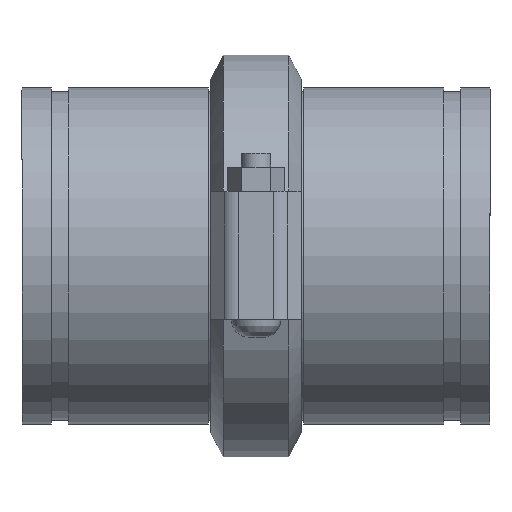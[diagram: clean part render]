
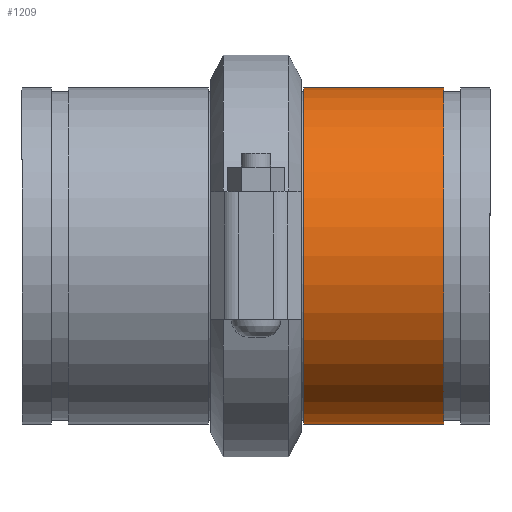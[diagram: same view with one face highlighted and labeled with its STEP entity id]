
A CAD part, top view. The second image highlights one B-rep face of the part: STEP entity #1209.
In plain terms, the highlighted cylindrical face has radius 109.537 mm (diameter 219.075 mm), a full revolution.
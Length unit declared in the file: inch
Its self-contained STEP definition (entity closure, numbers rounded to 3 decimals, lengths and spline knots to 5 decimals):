
#48=LINE('',#1929,#135);
#135=VECTOR('',#1570,4.3125);
#222=CYLINDRICAL_SURFACE('',#1395,4.3125);
#267=FACE_OUTER_BOUND('',#340,.T.);
#340=EDGE_LOOP('',(#797,#798,#799,#800,#801,#802));
#432=CIRCLE('',#1393,4.3125);
#433=CIRCLE('',#1394,4.3125);
#434=CIRCLE('',#1396,4.3125);
#435=CIRCLE('',#1397,4.3125);
#500=VERTEX_POINT('',#1920);
#501=VERTEX_POINT('',#1921);
#502=VERTEX_POINT('',#1925);
#503=VERTEX_POINT('',#1926);
#617=EDGE_CURVE('',#500,#501,#432,.T.);
#618=EDGE_CURVE('',#501,#500,#433,.T.);
#619=EDGE_CURVE('',#502,#503,#434,.T.);
#620=EDGE_CURVE('',#503,#502,#435,.T.);
#621=EDGE_CURVE('',#503,#501,#48,.T.);
#797=ORIENTED_EDGE('',*,*,#619,.F.);
#798=ORIENTED_EDGE('',*,*,#620,.F.);
#799=ORIENTED_EDGE('',*,*,#621,.T.);
#800=ORIENTED_EDGE('',*,*,#618,.T.);
#801=ORIENTED_EDGE('',*,*,#617,.T.);
#802=ORIENTED_EDGE('',*,*,#621,.F.);
#1209=ADVANCED_FACE('',(#267),#222,.T.);
#1393=AXIS2_PLACEMENT_3D('',#1922,#1560,#1561);
#1394=AXIS2_PLACEMENT_3D('',#1923,#1562,#1563);
#1395=AXIS2_PLACEMENT_3D('',#1924,#1564,#1565);
#1396=AXIS2_PLACEMENT_3D('',#1927,#1566,#1567);
#1397=AXIS2_PLACEMENT_3D('',#1928,#1568,#1569);
#1560=DIRECTION('center_axis',(-1.,0.,0.));
#1561=DIRECTION('ref_axis',(0.,0.,1.));
#1562=DIRECTION('center_axis',(-1.,0.,0.));
#1563=DIRECTION('ref_axis',(0.,0.,1.));
#1564=DIRECTION('center_axis',(-1.,0.,0.));
#1565=DIRECTION('ref_axis',(0.,1.,0.));
#1566=DIRECTION('center_axis',(-1.,0.,0.));
#1567=DIRECTION('ref_axis',(0.,0.,1.));
#1568=DIRECTION('center_axis',(-1.,0.,0.));
#1569=DIRECTION('ref_axis',(0.,0.,1.));
#1570=DIRECTION('',(1.,0.,0.));
#1920=CARTESIAN_POINT('',(1.797,4.3125,0.));
#1921=CARTESIAN_POINT('',(1.797,-4.3125,0.));
#1922=CARTESIAN_POINT('Origin',(1.797,0.,0.));
#1923=CARTESIAN_POINT('Origin',(1.797,0.,0.));
#1924=CARTESIAN_POINT('Origin',(0.,0.,
0.));
#1925=CARTESIAN_POINT('',(-1.797,4.3125,0.));
#1926=CARTESIAN_POINT('',(-1.797,-4.3125,0.));
#1927=CARTESIAN_POINT('Origin',(-1.797,0.,0.));
#1928=CARTESIAN_POINT('Origin',(-1.797,0.,0.));
#1929=CARTESIAN_POINT('',(0.,-4.3125,0.));
